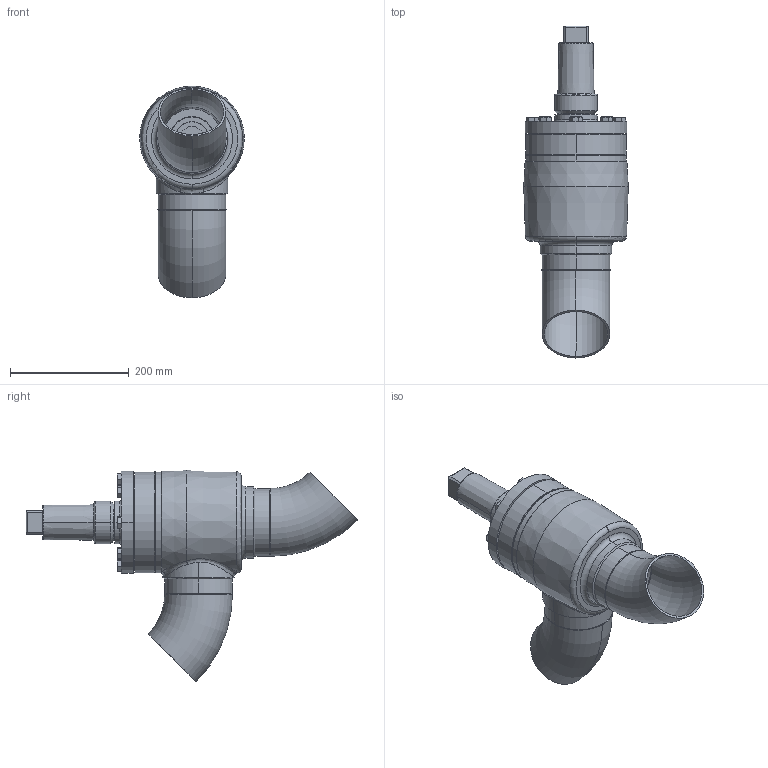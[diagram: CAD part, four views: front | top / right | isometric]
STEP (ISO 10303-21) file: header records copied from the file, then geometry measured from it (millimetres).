
FILE_DESCRIPTION (( 'STEP AP214' ), '1' );
FILE_NAME ('HRAB12300D19-DN100_R1_PS40.STEP', '2007-01-08T07:23:48', ( 'Herr Grams' ), ( 'AWP GmbH' ), 'SwSTEP 2.0', 'SolidWorks 2002296', '' );
FILE_SCHEMA (( 'AUTOMOTIVE_DESIGN' ));
Length unit declared in the file: millimetre
Products named in the file (13): HRAB12300D19-DN100_R1_PS40; Gehäuse-kpl16300-DN100_R1_Standard; Gehäuse-kpl16400-DN100_R1_Standard; Gehäuse16400-DN100_Standard; Kopfstück16300-DN100_Standard; bead-DN100-1_Standard; Rohrbogen 45°_Rohrbogen-DN100-45°; bead-DN100-3_Standard; bead-DN100-2_Standard; AVB16300E19_Deck+Schr-DN100_Standard; Deckel16300E19-DN100_Standard; Sechskantschraube-DIN933_M12x 35; Kappe16402_DN080-100_Standard
Assembly tree (20 placements, depth 4):
  HRAB12300D19-DN100_R1_PS40
    Gehäuse-kpl16300-DN100_R1_Standard
      Rohrbogen 45°_Rohrbogen-DN100-45°  x2
      bead-DN100-3_Standard
      Gehäuse-kpl16400-DN100_R1_Standard
        Gehäuse16400-DN100_Standard
        Kopfstück16300-DN100_Standard
        bead-DN100-1_Standard
      bead-DN100-2_Standard
    Kappe16402_DN080-100_Standard
    AVB16300E19_Deck+Schr-DN100_Standard
      Deckel16300E19-DN100_Standard
      Sechskantschraube-DIN933_M12x 35  x8
Bounding box: 176.38 x 559.89 x 357.12 mm (x, y, z)
Volume: 3203747.6 mm3; surface area: 632855.5 mm2
Topology: 17 solids, 17 shells, 385 faces, 822 edges, 497 vertices
Faces by surface type: cone 134, plane 114, cylinder 99, torus 20, bspline 18
Entity records: 19051 total; most frequent: CARTESIAN_POINT 13682, DIRECTION 999, ORIENTED_EDGE 892, EDGE_CURVE 446, AXIS2_PLACEMENT_3D 438, VERTEX_POINT 279, EDGE_LOOP 253, CIRCLE 226
